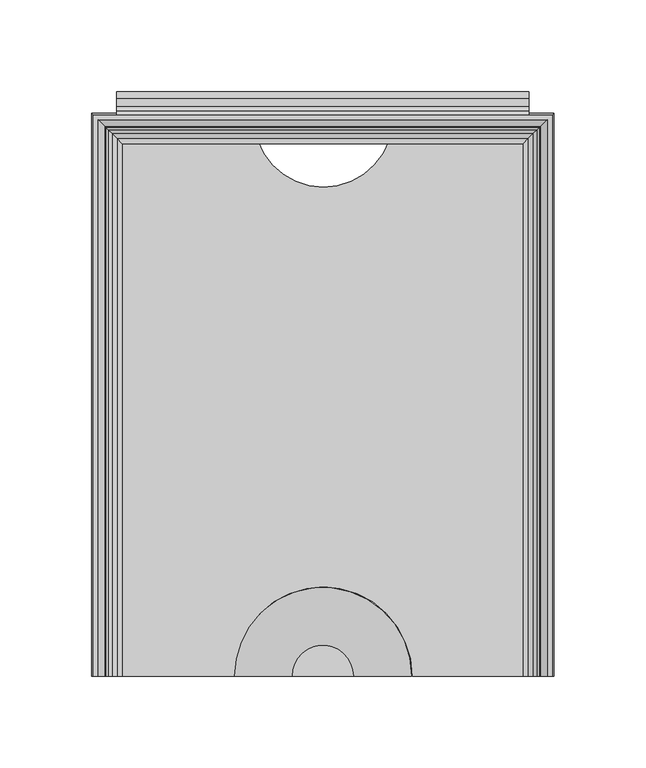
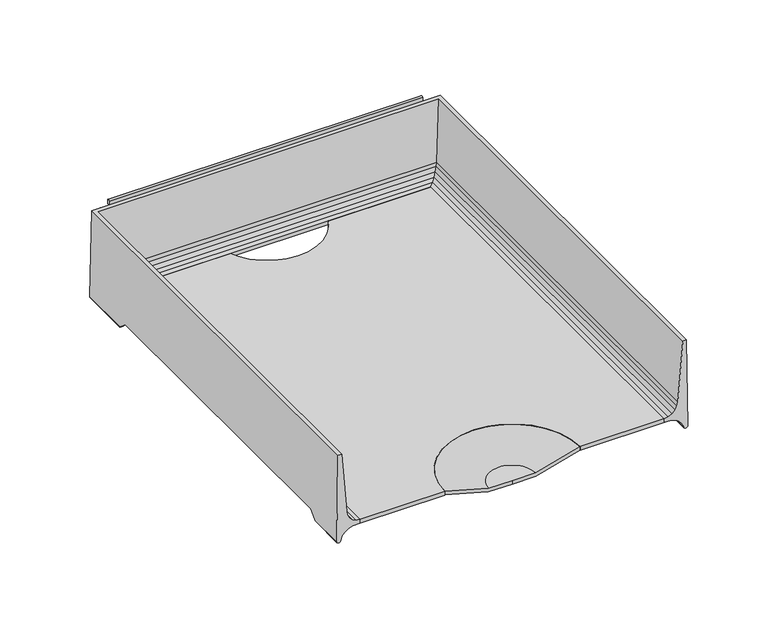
"""IFC4 building model written with IfcOpenShell, lengths in millimetres: furniture geometry."""

from ifc_helpers import new_model, si_unit, point, frame, frame_2d, origin, place, context, project, spatial, polyline, circle_curve, ellipse_curve, trimmed, segment, composite_curve, outline, extrude, source, transform, mapped, element, save
from ifc_brep_helpers import plane_surface, cylinder_surface, revolved_surface, advanced_brep


def furniture_75c44140(model_context):
    return source(origin(), model_context, "Body", "SolidModel", [
        advanced_brep(
        [(126.0820502, -154.0206082, 976.0007489), (125.1325529, -154.0206082, 1041.4001914), (122.4547921, -154.0206082, 1041.4001914), (118.8379747, -154.0206082, 996.6131003), (118.4123648, -154.0206082, 993.8796052), (117.0774354, -154.0206082, 991.1785664), (114.9656457, -154.0206082, 989.0296015), (112.28832, -154.0206082, 987.6477261), (109.3133381, -154.0206082, 987.1712052), (109.3133381, -154.0206082, 984.3490971), (114.5666739, -154.0206082, 984.1560987), (117.605351, -154.0206082, 983.0997218), (120.2416, -154.0206082, 981.2558822), (122.2762142, -154.0206082, 978.7639079), (123.1625518, -154.0206082, 975.7206655), (126.0820502, -127.6379698, 976.0007489), (126.0026181, -121.5231874, 981.471872), (126.0026181, 109.0611937, 981.471872), (126.0820502, 115.1759816, 976.0007489), (126.0820502, 153.036442, 976.0007489), (125.1325529, 152.0869447, 1041.4001914), (-125.1325529, 152.0869447, 1041.4001914), (-125.1325529, -154.0206082, 1041.4001914), (-122.4547921, -154.0206082, 1041.4001914), (-122.4547921, 149.4091839, 1041.4001914), (122.4547921, 149.4091839, 1041.4001914), (118.8379747, 145.7923665, 996.6131003), (118.4123648, 145.3667566, 993.8796052), (117.0774354, 144.0318272, 991.1785664), (114.9656457, 141.9200375, 989.0296015), (112.28832, 139.2427118, 987.6477261), (109.3133381, 136.2677299, 987.1712052), (109.3133381, 136.2677299, 984.3490971), (114.5666739, 141.5210656, 984.1560987), (117.605351, 144.5597428, 983.0997218), (120.2416, 147.1959918, 981.2558822), (120.2416, 109.3025941, 981.2558822), (119.9327864, 109.0611937, 981.471872), (119.9327864, -121.5231874, 981.471872), (120.2416, -121.7645876, 981.2558822), (122.2762142, -124.5497344, 978.7639079), (122.2762142, 149.230606, 978.7639079), (122.2762142, 112.0877435, 978.7639079), (123.1625518, -127.9510041, 975.7206655), (123.1625518, 150.1169436, 975.7206655), (123.1625518, 115.4890162, 975.7206655), (-126.0820502, 153.036442, 976.0007489), (-118.8379747, 145.7923665, 996.6131003), (-118.4123648, 145.3667566, 993.8796052), (-117.0774354, 144.0318272, 991.1785664), (-114.9656457, 141.9200375, 989.0296015), (-112.28832, 139.2427118, 987.6477261), (-109.3133381, 136.2677299, 987.1712052), (-109.3133381, 136.2677299, 984.3490971), (-114.5666739, 141.5210656, 984.1560987), (-117.605351, 144.5597428, 983.0997218), (-120.2416, 147.1959918, 981.2558822), (-122.2762142, 149.230606, 978.7639079), (-123.1625518, 150.1169436, 975.7206655), (-126.0820502, -154.0206082, 976.0007489), (-123.1625518, -154.0206082, 975.7206655), (-122.2762142, -154.0206082, 978.7639079), (-120.2416, -154.0206082, 981.2558822), (-117.605351, -154.0206082, 983.0997218), (-114.5666739, -154.0206082, 984.1560987), (-109.3133381, -154.0206082, 984.3490971), (-109.3133381, -154.0206082, 987.1712052), (-112.28832, -154.0206082, 987.6477261), (-114.9656457, -154.0206082, 989.0296015), (-117.0774354, -154.0206082, 991.1785664), (-118.4123648, -154.0206082, 993.8796052), (-118.8379747, -154.0206082, 996.6131003), (-126.0820502, 115.1759816, 976.0007489), (-126.0026181, 109.0611937, 981.471872), (-126.0026181, -121.5231874, 981.471872), (-126.0820502, -127.6379698, 976.0007489), (-120.2416, -121.7645876, 981.2558822), (-119.9327864, -121.5231874, 981.471872), (-119.9327864, 109.0611937, 981.471872), (-120.2416, 109.3025941, 981.2558822), (-122.2762142, 112.0877435, 978.7639079), (-122.2762142, -124.5497344, 978.7639079), (-123.1625518, 115.4890162, 975.7206655), (-123.1625518, -127.9510041, 975.7206655)],
        [
            (0, 1),
            (1, 2),
            (2, 3),
            (3, 4),
            (4, 5),
            (5, 6),
            (6, 7),
            (7, 8),
            (8, 9),
            (9, 10),
            (10, 11),
            (11, 12),
            (12, 13),
            (13, 14),
            (14, 0, circle_curve(frame((124.5859452, -154.0206082, 976.2396685), z_axis=(0.0, -1.0, 0.0), x_axis=(-1.0, 0.0, 0.0)), 1.515062)),
            (0, 15),
            (15, 16),
            (16, 17),
            (17, 18),
            (18, 19),
            (19, 20),
            (20, 1),
            (20, 21),
            (21, 22),
            (22, 23),
            (23, 24),
            (24, 25),
            (25, 2),
            (25, 26),
            (26, 3),
            (26, 27),
            (27, 4),
            (27, 28),
            (28, 5),
            (28, 29),
            (29, 6),
            (29, 30),
            (30, 7),
            (30, 31),
            (31, 8),
            (31, 32),
            (32, 9),
            (32, 33),
            (33, 10),
            (33, 34),
            (34, 11),
            (34, 35),
            (35, 36),
            (36, 37),
            (37, 38),
            (38, 39),
            (39, 12),
            (39, 40),
            (40, 13),
            (35, 41),
            (41, 42),
            (42, 36),
            (40, 43),
            (43, 14),
            (41, 44),
            (44, 45),
            (45, 42),
            (43, 15, ellipse_curve(frame((124.5859452, -127.3709422, 976.2396685), z_axis=(0.0, -0.6667949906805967, 0.7452411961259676), x_axis=(0.0, -0.7452411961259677, -0.6667949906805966)), 2.2721556, 1.515062)),
            (44, 19, ellipse_curve(frame((124.5859452, 151.540337, 976.2396685), z_axis=(0.7071067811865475, -0.7071067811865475, 0.0), x_axis=(-0.7071067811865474, -0.7071067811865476, 0.0)), 2.1426212, 1.515062)),
            (18, 45, ellipse_curve(frame((124.5859452, 114.9089538, 976.2396685), z_axis=(0.0, 0.6667946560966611, 0.7452414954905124), x_axis=(0.0, -0.7452414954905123, 0.6667946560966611)), 2.2721567, 1.515062)),
            (19, 46),
            (46, 21),
            (24, 47),
            (47, 26),
            (47, 48),
            (48, 27),
            (48, 49),
            (49, 28),
            (49, 50),
            (50, 29),
            (50, 51),
            (51, 30),
            (51, 52),
            (52, 31),
            (52, 53),
            (53, 32),
            (53, 54),
            (54, 33),
            (54, 55),
            (55, 34),
            (55, 56),
            (56, 35),
            (56, 57),
            (57, 41),
            (57, 58),
            (58, 44),
            (58, 46, ellipse_curve(frame((-124.5859452, 151.540337, 976.2396685), z_axis=(0.7071067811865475, 0.7071067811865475, 0.0), x_axis=(0.7071067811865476, -0.7071067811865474, 0.0)), 2.1426212, 1.515062)),
            (22, 59),
            (59, 60, circle_curve(frame((-124.5859452, -154.0206082, 976.2396685), z_axis=(0.0, -1.0, 0.0), x_axis=(1.0, 0.0, 0.0)), 1.515062)),
            (60, 61),
            (61, 62),
            (62, 63),
            (63, 64),
            (64, 65),
            (65, 66),
            (66, 67),
            (67, 68),
            (68, 69),
            (69, 70),
            (70, 71),
            (71, 23),
            (46, 72),
            (72, 73),
            (73, 74),
            (74, 75),
            (75, 59),
            (71, 47),
            (70, 48),
            (69, 49),
            (68, 50),
            (67, 51),
            (66, 52),
            (65, 53),
            (64, 54),
            (63, 55),
            (62, 76),
            (76, 77),
            (77, 78),
            (78, 79),
            (79, 56),
            (79, 80),
            (80, 57),
            (61, 81),
            (81, 76),
            (80, 82),
            (82, 58),
            (60, 83),
            (83, 81),
            (82, 72, ellipse_curve(frame((-124.5859452, 114.9089538, 976.2396685), z_axis=(0.0, 0.6667946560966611, 0.7452414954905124), x_axis=(0.0, 0.7452414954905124, -0.6667946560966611)), 2.2721567, 1.515062)),
            (75, 83, ellipse_curve(frame((-124.5859452, -127.3709422, 976.2396685), z_axis=(0.0, -0.6667949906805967, 0.7452411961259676), x_axis=(0.0, 0.7452411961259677, 0.6667949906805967)), 2.2721556, 1.515062)),
            (38, 16),
            (74, 77),
            (37, 17),
            (73, 78),
        ],
        [
            plane_surface(frame((127.0, -154.0206082, 974.725), z_axis=(0.0, -1.0, 0.0), x_axis=(0.0, 0.0, 1.0))),
            plane_surface(frame((126.0820502, -154.0206082, 976.0007489), z_axis=(0.9998946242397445, 0.0, 0.01451690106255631), x_axis=(0.0, 1.0, 0.0))),
            plane_surface(frame((125.1325529, -154.0206082, 1041.4001914), z_axis=(0.0, 0.0, 1.0), x_axis=(0.0, 1.0, 0.0))),
            plane_surface(frame((122.4547921, -154.0206082, 1041.4001914), z_axis=(-0.9967551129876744, 0.0, 0.08049375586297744), x_axis=(0.0, 1.0, 0.0))),
            plane_surface(frame((118.8379747, -154.0206082, 996.6131003), z_axis=(-0.9880945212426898, 0.0, 0.15384803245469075), x_axis=(0.0, 1.0, 0.0))),
            plane_surface(frame((118.4123648, -154.0206082, 993.8796052), z_axis=(-0.8964873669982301, 0.0, 0.44306929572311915), x_axis=(0.0, 1.0, 0.0))),
            plane_surface(frame((117.0774354, -154.0206082, 991.1785664), z_axis=(-0.7132491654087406, 0.0, 0.7009105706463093), x_axis=(0.0, 1.0, 0.0))),
            plane_surface(frame((114.9656457, -154.0206082, 989.0296015), z_axis=(-0.45865074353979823, 0.0, 0.8886166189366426), x_axis=(0.0, 1.0, 0.0))),
            plane_surface(frame((112.28832, -154.0206082, 987.6477261), z_axis=(-0.15816001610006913, 0.0, 0.987413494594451), x_axis=(0.0, 1.0, 0.0))),
            plane_surface(frame((109.3133381, -154.0206082, 987.1712052), z_axis=(-1.0, 0.0, 0.0), x_axis=(0.0, 1.0, 0.0))),
            plane_surface(frame((109.3133381, -154.0206082, 984.3490971), z_axis=(-0.036713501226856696, 0.0, -0.9993258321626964), x_axis=(0.0, 1.0, 0.0))),
            plane_surface(frame((114.5666739, -154.0206082, 984.1560987), z_axis=(-0.3283669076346, 0.0, -0.9445502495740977), x_axis=(0.0, 1.0, 0.0))),
            plane_surface(frame((117.605351, -154.0206082, 983.0997218), z_axis=(-0.5731421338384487, 0.0, -0.819455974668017), x_axis=(0.0, 1.0, 0.0))),
            plane_surface(frame((120.2416, -154.0206082, 981.2558822), z_axis=(-0.77460799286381, 0.0, -0.6324416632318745), x_axis=(0.0, 1.0, 0.0))),
            plane_surface(frame((122.2762142, -154.0206082, 978.7639079), z_axis=(-0.9601080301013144, 0.0, -0.2796293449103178), x_axis=(0.0, 1.0, 0.0))),
            cylinder_surface(frame((124.5859452, -154.0206082, 976.2396685), z_axis=(0.0, -1.0, 0.0), x_axis=(-1.0, 0.0, 0.0)), 1.515062),
            plane_surface(frame((126.0820502, 153.036442, 976.0007489), z_axis=(0.0, 0.9998946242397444, 0.01451690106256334), x_axis=(-1.0, 0.0, 0.0))),
            plane_surface(frame((122.4547921, 149.4091839, 1041.4001914), z_axis=(0.0, -0.9967551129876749, 0.08049375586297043), x_axis=(-1.0, 0.0, 0.0))),
            plane_surface(frame((118.8379747, 145.7923665, 996.6131003), z_axis=(0.0, -0.9880945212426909, 0.15384803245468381), x_axis=(-1.0, 0.0, 0.0))),
            plane_surface(frame((118.4123648, 145.3667566, 993.8796052), z_axis=(0.0, -0.8964873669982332, 0.4430692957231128), x_axis=(-1.0, 0.0, 0.0))),
            plane_surface(frame((117.0774354, 144.0318272, 991.1785664), z_axis=(0.0, -0.7132491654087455, 0.7009105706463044), x_axis=(-1.0, 0.0, 0.0))),
            plane_surface(frame((114.9656457, 141.9200375, 989.0296015), z_axis=(0.0, -0.4586507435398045, 0.8886166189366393), x_axis=(-1.0, 0.0, 0.0))),
            plane_surface(frame((112.28832, 139.2427118, 987.6477261), z_axis=(0.0, -0.15816001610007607, 0.9874134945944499), x_axis=(-1.0, 0.0, 0.0))),
            plane_surface(frame((109.3133381, 136.2677299, 987.1712052), z_axis=(0.0, -1.0, 0.0), x_axis=(-1.0, 0.0, 0.0))),
            plane_surface(frame((109.3133381, 136.2677299, 984.3490971), z_axis=(0.0, -0.03671350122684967, -0.9993258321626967), x_axis=(-1.0, 0.0, 0.0))),
            plane_surface(frame((114.5666739, 141.5210656, 984.1560987), z_axis=(0.0, -0.32836690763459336, -0.9445502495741), x_axis=(-1.0, 0.0, 0.0))),
            plane_surface(frame((117.605351, 144.5597428, 983.0997218), z_axis=(0.0, -0.5731421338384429, -0.819455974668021), x_axis=(-1.0, 0.0, 0.0))),
            plane_surface(frame((120.2416, 147.1959918, 981.2558822), z_axis=(0.0, -0.7746079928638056, -0.6324416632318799), x_axis=(-1.0, 0.0, 0.0))),
            plane_surface(frame((122.2762142, 149.230606, 978.7639079), z_axis=(0.0, -0.9601080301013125, -0.27962934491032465), x_axis=(-1.0, 0.0, 0.0))),
            cylinder_surface(frame((127.0, 151.540337, 976.2396685), z_axis=(1.0, 0.0, 0.0), x_axis=(0.0, -1.0, 0.0)), 1.515062),
            plane_surface(frame((-127.0, -154.0206082, 974.725), z_axis=(0.0, -1.0, 0.0), x_axis=(0.0, 0.0, 1.0))),
            plane_surface(frame((-126.0820502, 153.036442, 976.0007489), z_axis=(-0.9998946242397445, 0.0, 0.01451690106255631), x_axis=(0.0, -1.0, 0.0))),
            plane_surface(frame((-122.4547921, 149.4091839, 1041.4001914), z_axis=(0.9967551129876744, 0.0, 0.08049375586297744), x_axis=(0.0, -1.0, 0.0))),
            plane_surface(frame((-118.8379747, 145.7923665, 996.6131003), z_axis=(0.9880945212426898, 0.0, 0.15384803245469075), x_axis=(0.0, -1.0, 0.0))),
            plane_surface(frame((-118.4123648, 145.3667566, 993.8796052), z_axis=(0.8964873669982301, 0.0, 0.44306929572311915), x_axis=(0.0, -1.0, 0.0))),
            plane_surface(frame((-117.0774354, 144.0318272, 991.1785664), z_axis=(0.7132491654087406, 0.0, 0.7009105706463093), x_axis=(0.0, -1.0, 0.0))),
            plane_surface(frame((-114.9656457, 141.9200375, 989.0296015), z_axis=(0.45865074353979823, 0.0, 0.8886166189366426), x_axis=(0.0, -1.0, 0.0))),
            plane_surface(frame((-112.28832, 139.2427118, 987.6477261), z_axis=(0.15816001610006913, 0.0, 0.987413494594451), x_axis=(0.0, -1.0, 0.0))),
            plane_surface(frame((-109.3133381, 136.2677299, 987.1712052), z_axis=(1.0, 0.0, 0.0), x_axis=(0.0, -1.0, 0.0))),
            plane_surface(frame((-109.3133381, 136.2677299, 984.3490971), z_axis=(0.036713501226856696, 0.0, -0.9993258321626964), x_axis=(0.0, -1.0, 0.0))),
            plane_surface(frame((-114.5666739, 141.5210656, 984.1560987), z_axis=(0.3283669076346, 0.0, -0.9445502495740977), x_axis=(0.0, -1.0, 0.0))),
            plane_surface(frame((-117.605351, 144.5597428, 983.0997218), z_axis=(0.5731421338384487, 0.0, -0.819455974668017), x_axis=(0.0, -1.0, 0.0))),
            plane_surface(frame((-120.2416, 147.1959918, 981.2558822), z_axis=(0.77460799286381, 0.0, -0.6324416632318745), x_axis=(0.0, -1.0, 0.0))),
            plane_surface(frame((-122.2762142, 149.230606, 978.7639079), z_axis=(0.9601080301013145, 0.0, -0.2796293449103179), x_axis=(0.0, -1.0, 0.0))),
            cylinder_surface(frame((-124.5859452, 153.9543918, 976.2396685), z_axis=(0.0, 1.0, 0.0), x_axis=(1.0, 0.0, 0.0)), 1.515062),
            plane_surface(frame((-127.0, -130.1695728, 973.7356296), z_axis=(0.0, 0.6667949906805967, -0.7452411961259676), x_axis=(1.0, 0.0, 0.0))),
            plane_surface(frame((-127.0, -121.5231874, 981.471872), z_axis=(0.0, 0.0, -1.0), x_axis=(1.0, 0.0, 0.0))),
            plane_surface(frame((-127.0, 109.0611937, 981.471872), z_axis=(0.0, -0.6667946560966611, -0.7452414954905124), x_axis=(1.0, 0.0, 0.0))),
        ],
        [
            (0, [[1, 2, 3, 4, 5, 6, 7, 8, 9, 10, 11, 12, 13, 14, 15]]),
            (1, [[-1, 16, 17, 18, 19, 20, 21, 22]]),
            (2, [[-2, -22, 23, 24, 25, 26, 27, 28]]),
            (3, [[-3, -28, 29, 30]]),
            (4, [[-4, -30, 31, 32]]),
            (5, [[-5, -32, 33, 34]]),
            (6, [[-6, -34, 35, 36]]),
            (7, [[-7, -36, 37, 38]]),
            (8, [[-8, -38, 39, 40]]),
            (9, [[-9, -40, 41, 42]]),
            (10, [[-10, -42, 43, 44]]),
            (11, [[-11, -44, 45, 46]]),
            (12, [[-12, -46, 47, 48, 49, 50, 51, 52]]),
            (13, [[-13, -52, 53, 54]]),
            (13, [[55, 56, 57, -48]]),
            (14, [[-14, -54, 58, 59]]),
            (14, [[60, 61, 62, -56]]),
            (15, [[-15, -59, 63, -16]]),
            (15, [[64, -20, 65, -61]]),
            (16, [[-21, 66, 67, -23]]),
            (17, [[-27, 68, 69, -29]]),
            (18, [[-31, -69, 70, 71]]),
            (19, [[-33, -71, 72, 73]]),
            (20, [[-35, -73, 74, 75]]),
            (21, [[-37, -75, 76, 77]]),
            (22, [[-39, -77, 78, 79]]),
            (23, [[-41, -79, 80, 81]]),
            (24, [[-43, -81, 82, 83]]),
            (25, [[-45, -83, 84, 85]]),
            (26, [[-47, -85, 86, 87]]),
            (27, [[-55, -87, 88, 89]]),
            (28, [[-60, -89, 90, 91]]),
            (29, [[-64, -91, 92, -66]]),
            (30, [[-25, 93, 94, 95, 96, 97, 98, 99, 100, 101, 102, 103, 104, 105, 106]]),
            (31, [[-24, -67, 107, 108, 109, 110, 111, -93]]),
            (32, [[-26, -106, 112, -68]]),
            (33, [[-70, -112, -105, 113]]),
            (34, [[-72, -113, -104, 114]]),
            (35, [[-74, -114, -103, 115]]),
            (36, [[-76, -115, -102, 116]]),
            (37, [[-78, -116, -101, 117]]),
            (38, [[-80, -117, -100, 118]]),
            (39, [[-82, -118, -99, 119]]),
            (40, [[-84, -119, -98, 120]]),
            (41, [[-86, -120, -97, 121, 122, 123, 124, 125]]),
            (42, [[-88, -125, 126, 127]]),
            (42, [[-96, 128, 129, -121]]),
            (43, [[-90, -127, 130, 131]]),
            (43, [[-95, 132, 133, -128]]),
            (44, [[-92, -131, 134, -107]]),
            (44, [[-94, -111, 135, -132]]),
            (45, [[136, -17, -63, -58, -53, -51]]),
            (45, [[137, -122, -129, -133, -135, -110]]),
            (46, [[-136, -50, 138, -18]]),
            (46, [[-137, -109, 139, -123]]),
            (47, [[-138, -49, -57, -62, -65, -19]]),
            (47, [[-139, -108, -134, -130, -126, -124]]),
        ],
    ),
        extrude(outline(composite_curve([segment(polyline([(-109.3647805, 138.2769393), (-35.6610422, 138.2769393)]), True, "CONTINUOUS"), segment(trimmed(circle_curve(frame_2d((0.3369133, 150.6584166)), 38.0677525), [point((-35.6610422, 138.2769393))], [point((36.3348688, 138.2769393))], True, "CARTESIAN"), True, "CONTINUOUS"), segment(polyline([(36.3348688, 138.2769393), (109.6504969, 138.2769393), (109.6504969, -153.9875), (48.9112184, -153.9875)]), True, "CONTINUOUS"), segment(trimmed(circle_curve(frame_2d((0.2842795, -153.9323196)), 48.6269702), [point((48.9112184, -153.9875))], [point((-48.3426595, -153.9875))], True, "CARTESIAN"), True, "CONTINUOUS"), segment(polyline([(-48.3426595, -153.9875), (-109.3647805, -153.9875), (-109.3647805, 138.2769393)]), True, "CONTINUOUS")], self_intersect=False)), frame((0.0, 0.0, 984.3314677), z_axis=(0.0, 0.0, 1.0), x_axis=(1.0, 0.0, 0.0)), (0.0, 0.0, 1.0), 2.8395461),
        extrude(outline(composite_curve([segment(trimmed(circle_curve(frame_2d((162.7186949, 1025.5707343)), 1.9049988), [point((164.6236937, 1025.5707343))], [point((160.8136962, 1025.5707343))], False, "CARTESIAN"), True, "CONTINUOUS"), segment(polyline([(160.8136962, 1025.5707343), (160.8136962, 1028.9997311), (160.0516969, 1029.7617303), (156.4380325, 1029.7617303), (152.1427596, 1027.4143331), (152.1427596, 1035.9191285), (156.4380325, 1033.5717312), (160.8136928, 1033.5717312)]), True, "CONTINUOUS"), segment(trimmed(circle_curve(frame_2d((160.8136928, 1029.7617303)), 3.8100009), [point((160.8136928, 1033.5717312))], [point((164.6236937, 1029.7617303))], False, "CARTESIAN"), True, "CONTINUOUS"), segment(polyline([(164.6236937, 1029.7617303), (164.6236937, 1025.5707343)]), True, "CONTINUOUS")], self_intersect=False)), frame((-112.5397809, 0.0, 0.0), z_axis=(1.0, 0.0, 0.0), x_axis=(0.0, 1.0, 0.0)), (0.0, 0.0, 1.0), 225.0795617),
        advanced_brep(
        [(-16.8929028, -153.9875, 978.296875), (-48.4614622, -153.9875, 987.2045432), (-48.4614622, -153.9875, 984.6130018), (-16.9249292, -153.9875, 975.7143704), (0.0, -153.9875, 975.7143704), (0.0, -153.9875, 978.296875), (16.8929028, -153.9875, 978.296875), (16.9249292, -153.9875, 975.7143704), (48.4614622, -153.9875, 984.6130018), (48.4614622, -153.9875, 987.2045432)],
        [
            (0, 1),
            (1, 2),
            (2, 3),
            (3, 4),
            (4, 5),
            (5, 0),
            (6, 5),
            (4, 7),
            (7, 8),
            (8, 9),
            (9, 6),
            (9, 1, circle_curve(frame((0.0, -153.9875, 987.2045432), z_axis=(0.0, 0.0, 1.0), x_axis=(-1.0, 0.0, 0.0)), 48.4614622)),
            (0, 6, circle_curve(frame((0.0, -153.9875, 978.296875), z_axis=(0.0, 0.0, -1.0), x_axis=(-1.0, 0.0, 0.0)), 16.8929028)),
            (8, 2, circle_curve(frame((0.0, -153.9875, 984.6130018), z_axis=(0.0, 0.0, 1.0), x_axis=(-1.0, 0.0, 0.0)), 48.4614622)),
            (7, 3, circle_curve(frame((0.0, -153.9875, 975.7143704), z_axis=(0.0, 0.0, 1.0), x_axis=(-1.0, 0.0, 0.0)), 16.9249292)),
        ],
        [
            plane_surface(frame((0.0, -153.9875, 974.725), z_axis=(0.0, -1.0, 0.0), x_axis=(-1.0, 0.0, 0.0))),
            plane_surface(frame((0.0, -153.9875, 974.725), z_axis=(0.0, -1.0, 0.0), x_axis=(1.0, 0.0, 0.0))),
            revolved_surface(polyline([(-48.4614622, -153.9875, 987.2045432), (-16.8929028, -153.9875, 978.296875)]), (0.0, -153.9875, 974.725), (0.0, 0.0, 1.0)),
            cylinder_surface(frame((0.0, -153.9875, 974.725), z_axis=(0.0, 0.0, 1.0), x_axis=(-1.0, 0.0, 0.0)), 48.4614622),
            revolved_surface(polyline([(-16.9249292, -153.9875, 975.7143704), (-48.4614622, -153.9875, 984.6130018)]), (0.0, -153.9875, 974.725), (0.0, 0.0, 1.0)),
            plane_surface(frame((0.0, -153.9875, 975.7143704), z_axis=(0.0, 0.0, -1.0), x_axis=(-1.0, 0.0, 0.0))),
            plane_surface(frame((0.0, -153.9875, 978.296875), z_axis=(0.0, 0.0, 1.0), x_axis=(-1.0, 0.0, 0.0))),
        ],
        [
            (0, [[1, 2, 3, 4, 5, 6]]),
            (1, [[7, -5, 8, 9, 10, 11]]),
            (2, [[12, -1, 13, -11]]),
            (3, [[14, -2, -12, -10]]),
            (4, [[15, -3, -14, -9]]),
            (5, [[-4, -15, -8]]),
            (6, [[-13, -6, -7]]),
        ],
    ),
        extrude(outline(composite_curve([segment(polyline([(153.9875, 1041.4), (152.1427596, 1041.4), (152.1427596, 1044.2315333)]), True, "CONTINUOUS"), segment(trimmed(circle_curve(frame_2d((153.0651298, 1043.9262665)), 0.9715733), [point((152.1427596, 1044.2315333))], [point((153.9875, 1044.2315333))], False, "CARTESIAN"), True, "CONTINUOUS"), segment(polyline([(153.9875, 1044.2315333), (153.9875, 1041.4)]), True, "CONTINUOUS")], self_intersect=False)), frame((-112.5397809, 0.0, 0.0), z_axis=(1.0, 0.0, 0.0), x_axis=(0.0, 1.0, 0.0)), (0.0, 0.0, 1.0), 225.0795617),
    ])


if __name__ == "__main__":
    model = new_model("IFC4")
    model_context = context("Model", 3, world=origin())
    ifc_project = project(units=[si_unit("LENGTHUNIT", "METRE", prefix="MILLI")], contexts=[model_context])
    site = spatial("IfcSite", under=ifc_project)
    building = spatial("IfcBuilding", under=site)
    placement = place(None, origin())
    furniture_shape = furniture_75c44140(model_context)
    element("IfcFurniture", 1, ObjectType="HermanMiller_ThrivePortfolio_Y7216_PaperTray : 3\"H x 12\"D x 10\"W", at=placement, inside=building, context=model_context, shape_type="MappedRepresentation", body=[
        mapped(furniture_shape, transform((0.0, 0.0, 0.0), x_axis=(1.0, 0.0, 0.0), y_axis=(0.0, 1.0, 0.0), z_axis=(0.0, 0.0, 1.0))),
    ])
    save(model, "model.ifc")
